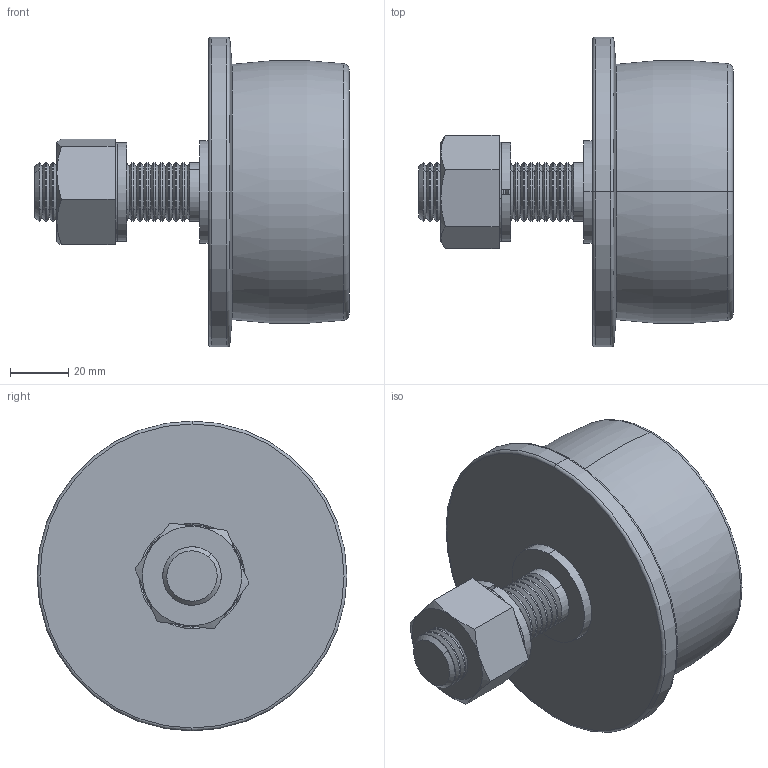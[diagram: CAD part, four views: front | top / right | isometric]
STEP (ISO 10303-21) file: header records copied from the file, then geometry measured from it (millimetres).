
FILE_DESCRIPTION (( 'STEP AP203' ), '1' );
FILE_NAME ('BTSF90X40M20.STEP', '2019-11-08T04:56:01', ( '' ), ( '' ), 'SwSTEP 2.0', 'SolidWorks 2013', '' );
FILE_SCHEMA (( 'CONFIG_CONTROL_DESIGN' ));
Length unit declared in the file: millimetre
Products named in the file (1): BTSF90X40M20
Bounding box: 107.4 x 106 x 106 mm (x, y, z)
Volume: 310454.8 mm3; surface area: 84462.4 mm2
Topology: 9 solids, 9 shells, 473 faces, 1674 edges, 1102 vertices
Faces by surface type: cylinder 128, torus 120, cone 104, sphere 64, plane 57
Entity records: 19237 total; most frequent: CARTESIAN_POINT 6130, ORIENTED_EDGE 2964, DIRECTION 2680, EDGE_CURVE 1482, AXIS2_PLACEMENT_3D 1200, VERTEX_POINT 974, CIRCLE 726, EDGE_LOOP 500
